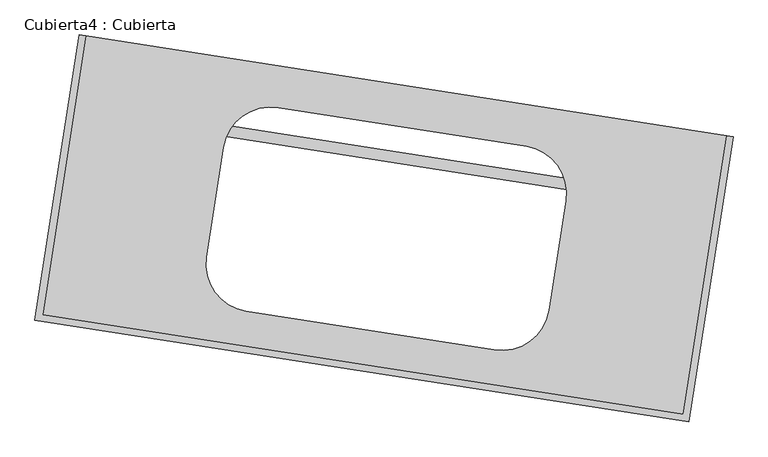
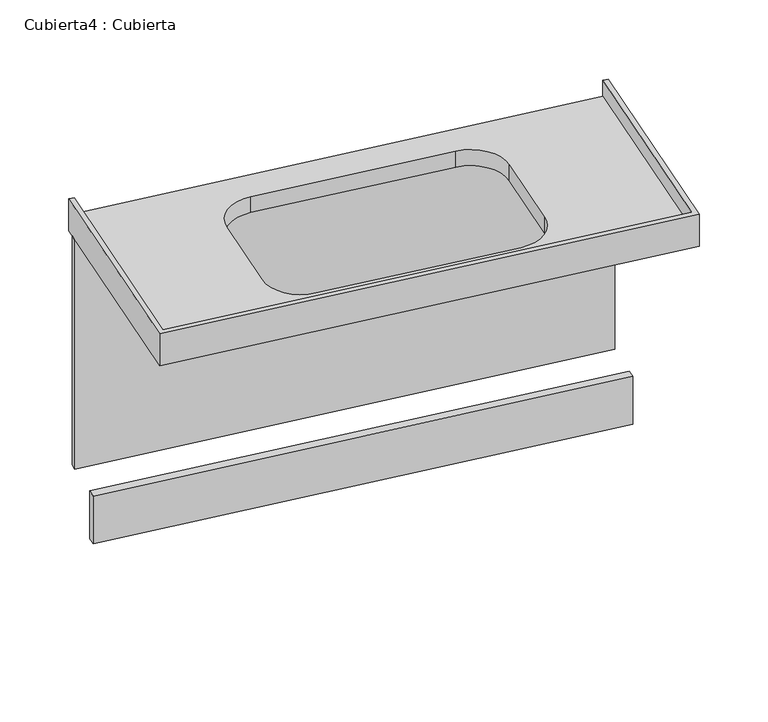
"""IFC4 building model written with IfcOpenShell, lengths in millimetres: furniture geometry, Cubierta4 : Cubierta."""

from ifc_helpers import new_model, si_unit, frame, origin, place, context, project, spatial, polyline, circle_curve, outline, extrude, source, transform, mapped, element, save
from ifc_brep_helpers import plane_surface, revolved_surface, advanced_brep


def cubierta4_cubierta_36e0920c(model_context):
    return source(origin(), model_context, "Body", "SolidModel", [
        extrude(outline(polyline([(-42536.0283439, -60464.5547601), (-42539.8785909, -60489.2564928), (-44012.1018536, -60259.7817736), (-44008.2516066, -60235.0800409), (-42536.0283439, -60464.5547601)])), frame((0.0, 0.0, 3200.0), z_axis=(0.0, 0.0, 1.0), x_axis=(1.0, 0.0, 0.0)), (0.0, 0.0, 1.0), 150.0),
        extrude(outline(polyline([(-42516.777109, -60341.0460966), (-42519.8573066, -60360.8074828), (-43992.0805693, -60131.3327636), (-43989.0003717, -60111.5713774), (-42516.777109, -60341.0460966)])), frame((0.0, 0.0, 3350.0), z_axis=(0.0, 0.0, 1.0), x_axis=(1.0, 0.0, 0.0)), (0.0, 0.0, 1.0), 720.0),
        advanced_brep(
        [(-42527.7479016, -60314.0342157, 4120.0), (-43970.3290851, -60089.1797929, 4120.0), (-44068.1253584, -60716.6038034, 4120.0), (-42625.5441749, -60941.4582262, 4120.0), (-43659.75312, -60340.004067, 4120.0), (-43537.550647, -60250.7597082, 4120.0), (-42979.2914881, -60337.7752899, 4120.0), (-42890.0471292, -60459.977763, 4120.0), (-42928.549599, -60706.9950899, 4120.0), (-43050.752072, -60796.2394488, 4120.0), (-43609.011231, -60709.223867, 4120.0), (-43698.2555898, -60587.021394, 4120.0), (-42613.0332835, -60958.5894141, 4070.0), (-44085.2565462, -60729.1146949, 4070.0), (-43985.1501247, -60086.8696447, 4070.0), (-42512.9268621, -60316.3443639, 4070.0), (-43659.75312, -60340.004067, 4070.0), (-43698.2555898, -60587.021394, 4070.0), (-43609.011231, -60709.223867, 4070.0), (-43050.752072, -60796.2394488, 4070.0), (-42928.549599, -60706.9950899, 4070.0), (-42890.0471292, -60459.977763, 4070.0), (-42979.2914881, -60337.7752899, 4070.0), (-43537.550647, -60250.7597082, 4070.0), (-43985.1501247, -60086.8696447, 4170.0), (-43970.3290851, -60089.1797929, 4170.0), (-42527.7479016, -60314.0342157, 4170.0), (-42512.9268619, -60316.3443639, 4170.0), (-42625.5441749, -60941.4582262, 4170.0), (-44068.1253584, -60716.6038034, 4170.0), (-42613.0332835, -60958.589414, 4170.0), (-44085.2565462, -60729.1146948, 4170.0)],
        [
            (0, 1),
            (1, 2),
            (2, 3),
            (3, 0),
            (4, 5, circle_curve(frame((-43554.0297041, -60356.4831241, 4120.0), z_axis=(0.0, 0.0, -1.0), x_axis=(0.9880693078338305, -0.15400987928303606, 0.0)), 107.0)),
            (5, 6),
            (6, 7, circle_curve(frame((-42995.7705451, -60443.4987059, 4120.0), z_axis=(0.0, 0.0, -1.0), x_axis=(0.9880693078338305, -0.15400987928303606, 0.0)), 107.0)),
            (7, 8),
            (8, 9, circle_curve(frame((-43034.273015, -60690.5160328, 4120.0), z_axis=(0.0, 0.0, -1.0), x_axis=(0.9880693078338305, -0.15400987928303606, 0.0)), 107.0)),
            (9, 10),
            (10, 11, circle_curve(frame((-43592.5321739, -60603.5004511, 4120.0), z_axis=(0.0, 0.0, -1.0), x_axis=(0.9880693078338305, -0.15400987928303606, 0.0)), 107.0)),
            (11, 4),
            (12, 13),
            (13, 14),
            (14, 15),
            (15, 12),
            (16, 17),
            (17, 18, circle_curve(frame((-43592.5321739, -60603.5004511, 4070.0), z_axis=(0.0, 0.0, 1.0), x_axis=(0.9880693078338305, -0.15400987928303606, 0.0)), 107.0)),
            (18, 19),
            (19, 20, circle_curve(frame((-43034.273015, -60690.5160328, 4070.0), z_axis=(0.0, 0.0, 1.0), x_axis=(0.9880693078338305, -0.15400987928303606, 0.0)), 107.0)),
            (20, 21),
            (21, 22, circle_curve(frame((-42995.7705451, -60443.4987059, 4070.0), z_axis=(0.0, 0.0, 1.0), x_axis=(0.9880693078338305, -0.15400987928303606, 0.0)), 107.0)),
            (22, 23),
            (23, 16, circle_curve(frame((-43554.0297041, -60356.4831241, 4070.0), z_axis=(0.0, 0.0, 1.0), x_axis=(0.9880693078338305, -0.15400987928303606, 0.0)), 107.0)),
            (14, 24),
            (24, 25),
            (25, 1),
            (0, 26),
            (26, 27),
            (27, 15),
            (28, 3),
            (2, 29),
            (29, 28),
            (30, 31),
            (31, 13),
            (12, 30),
            (11, 17),
            (16, 4),
            (10, 18),
            (9, 19),
            (8, 20),
            (7, 21),
            (6, 22),
            (5, 23),
            (27, 30),
            (28, 26),
            (29, 25),
            (24, 31),
        ],
        [
            plane_surface(frame((-42514.4669603, -60326.2250534, 4120.0), z_axis=(0.0, 0.0, 1.0), x_axis=(0.1540098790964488, 0.9880693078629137, 0.0))),
            plane_surface(frame((-42514.4669603, -60326.2250534, 4070.0), z_axis=(0.0, 0.0, -1.0), x_axis=(-0.1540098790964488, -0.9880693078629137, 0.0))),
            plane_surface(frame((-42512.9268619, -60316.3443639, 3220.0), z_axis=(0.15400987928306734, 0.9880693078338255, 0.0), x_axis=(0.0, 0.0, 1.0))),
            plane_surface(frame((-42625.5441749, -60941.4582262, 4120.0), z_axis=(0.15400987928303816, 0.9880693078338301, 0.0), x_axis=(-0.9880693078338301, 0.15400987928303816, 0.0))),
            plane_surface(frame((-42613.0332835, -60958.589414, 4170.0), z_axis=(-0.15400987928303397, -0.9880693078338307, 0.0), x_axis=(-0.9880693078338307, 0.15400987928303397, 0.0))),
            plane_surface(frame((-43698.2555898, -60587.021394, 4120.0), z_axis=(0.9880693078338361, -0.15400987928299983, 0.0), x_axis=(0.0, 0.0, -1.0))),
            revolved_surface(polyline([(-43486.80875796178, -60619.979508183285, 4070.0000000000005), (-43486.80875796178, -60619.979508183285, 4120.0)]), (-43592.5321739, -60603.5004511, 3220.0), (0.0, 0.0, -1.0000000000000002)),
            plane_surface(frame((-43050.752072, -60796.2394488, 4120.0), z_axis=(0.15400987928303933, 0.98806930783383, 0.0), x_axis=(0.0, 0.0, -1.0))),
            revolved_surface(polyline([(-42928.54959906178, -60706.99508988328, 4070.0000000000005), (-42928.54959906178, -60706.99508988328, 4120.0)]), (-43034.273015, -60690.5160328, 3220.0), (0.0, 0.0, -1.0000000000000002)),
            plane_surface(frame((-42890.0471292, -60459.977763, 4120.0), z_axis=(-0.9880693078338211, 0.15400987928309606, 0.0), x_axis=(0.0, 0.0, -1.0))),
            revolved_surface(polyline([(-42890.04712916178, -60459.97776298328, 4070.0000000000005), (-42890.04712916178, -60459.97776298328, 4120.0)]), (-42995.7705451, -60443.4987059, 3220.0), (0.0, 0.0, -1.0000000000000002)),
            plane_surface(frame((-43537.550647, -60250.7597082, 4120.0), z_axis=(-0.1540098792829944, -0.9880693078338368, 0.0), x_axis=(0.0, 0.0, -1.0))),
            revolved_surface(polyline([(-43448.30628816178, -60372.962181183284, 4070.0000000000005), (-43448.30628816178, -60372.962181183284, 4120.0)]), (-43554.0297041, -60356.4831241, 3220.0), (0.0, 0.0, -1.0000000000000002)),
            plane_surface(frame((-42512.9268619, -60316.3443639, 4170.0), z_axis=(0.988069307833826, -0.1540098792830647, 0.0), x_axis=(-0.1540098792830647, -0.988069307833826, 0.0))),
            plane_surface(frame((-42527.7479016, -60314.0342157, 4120.0), z_axis=(-0.9880693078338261, 0.1540098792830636, 0.0), x_axis=(-0.1540098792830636, -0.9880693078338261, 0.0))),
            plane_surface(frame((-42527.7479016, -60314.0342157, 4170.0), z_axis=(0.0, 0.0, 1.0), x_axis=(-0.1540098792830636, -0.9880693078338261, 0.0))),
            plane_surface(frame((-44085.2565462, -60729.1146948, 4170.0), z_axis=(-0.9880693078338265, 0.15400987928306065, 0.0), x_axis=(0.15400987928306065, 0.9880693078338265, 0.0))),
            plane_surface(frame((-44068.1253584, -60716.6038034, 4120.0), z_axis=(0.9880693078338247, -0.15400987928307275, 0.0), x_axis=(0.15400987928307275, 0.9880693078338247, 0.0))),
        ],
        [
            (0, [[1, 2, 3, 4], [5, 6, 7, 8, 9, 10, 11, 12]]),
            (1, [[13, 14, 15, 16], [17, 18, 19, 20, 21, 22, 23, 24]]),
            (2, [[-15, 25, 26, 27, -1, 28, 29, 30]]),
            (3, [[31, -3, 32, 33]]),
            (4, [[34, 35, -13, 36]]),
            (5, [[-12, 37, -17, 38]]),
            (6, [[-11, 39, -18, -37]]),
            (7, [[-10, 40, -19, -39]]),
            (8, [[-9, 41, -20, -40]]),
            (9, [[-8, 42, -21, -41]]),
            (10, [[-7, 43, -22, -42]]),
            (11, [[-6, 44, -23, -43]]),
            (12, [[-5, -38, -24, -44]]),
            (13, [[-30, 45, -36, -16]]),
            (14, [[-28, -4, -31, 46]]),
            (15, [[-29, -46, -33, 47, -26, 48, -34, -45]]),
            (16, [[-35, -48, -25, -14]]),
            (17, [[-32, -2, -27, -47]]),
        ],
    ),
    ])


if __name__ == "__main__":
    model = new_model("IFC4")
    model_context = context("Model", 3, world=origin())
    ifc_project = project(units=[si_unit("LENGTHUNIT", "METRE", prefix="MILLI")], contexts=[model_context])
    site = spatial("IfcSite", under=ifc_project)
    building = spatial("IfcBuilding", under=site)
    placement = place(None, origin())
    cubierta4_cubierta_shape = cubierta4_cubierta_36e0920c(model_context)
    element("IfcFurniture", 1, ObjectType="Cubierta4 : Cubierta", at=placement, inside=building, context=model_context, shape_type="MappedRepresentation", body=[
        mapped(cubierta4_cubierta_shape, transform((0.0, 0.0, 0.0), x_axis=(1.0, 0.0, 0.0), y_axis=(0.0, 1.0, 0.0), z_axis=(0.0, 0.0, 1.0))),
    ])
    save(model, "model.ifc")
